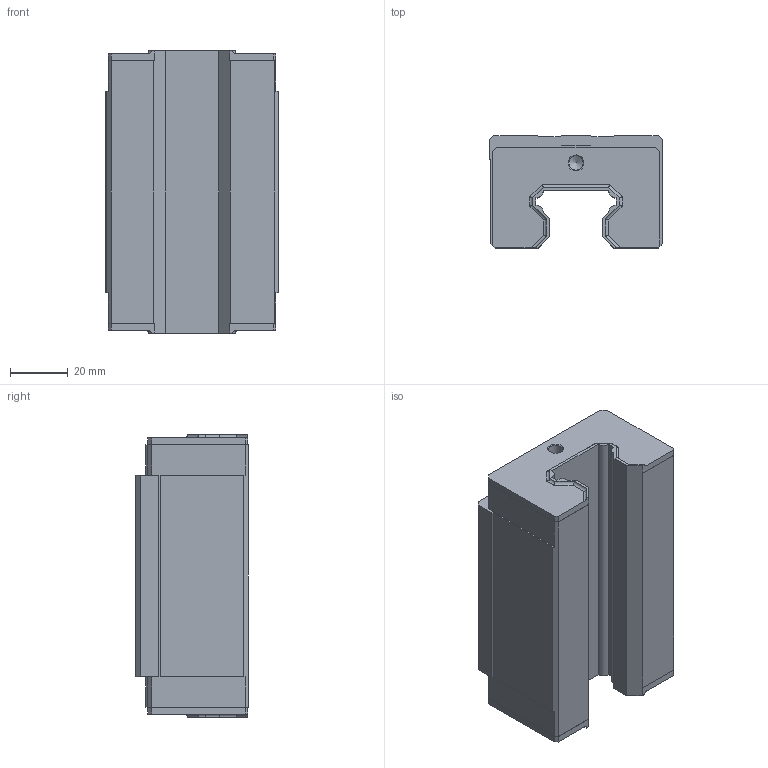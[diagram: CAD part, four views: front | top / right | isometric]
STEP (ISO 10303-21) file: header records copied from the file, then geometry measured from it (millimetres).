
FILE_DESCRIPTION(/* description */ (''),/* implementation_level */ '2;1');
FILE_NAME(/* name */ 'C:\Users\daviddillkoetter\ownCloud\Kamp und Kötter\Artikel\KPN_Profilführungen\Step\KPNW-30X-BS.stp',/* time_stamp */ '2021-01-27T16:44:29+01:00',/* author */ ('daviddillkoetter'),/* organization */ (''),/* preprocessor_version */ 'ST-DEVELOPER v18.1',/* originating_system */ 'Autodesk Inventor 2021',/* authorisation */ '');
FILE_SCHEMA (('AUTOMOTIVE_DESIGN { 1 0 10303 214 3 1 1 }'));
Length unit declared in the file: millimetre
Products named in the file (1): KPNW_F
Bounding box: 60 x 39 x 98 mm (x, y, z)
Volume: 170371.1 mm3; surface area: 28393 mm2
Topology: 1 solids, 1 shells, 116 faces, 336 edges, 222 vertices
Faces by surface type: plane 72, cylinder 32, cone 12
Full cylindrical faces by diameter (mm): 4.917 x2, 6.647 x4
Entity records: 3912 total; most frequent: CARTESIAN_POINT 669, ORIENTED_EDGE 660, DIRECTION 620, EDGE_CURVE 330, LINE 274, VECTOR 274, VERTEX_POINT 222, AXIS2_PLACEMENT_3D 173
